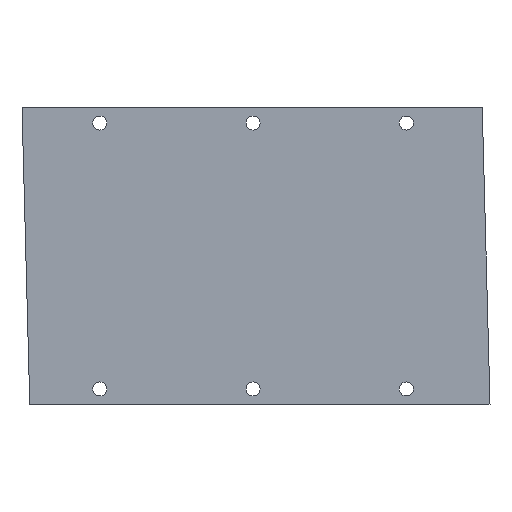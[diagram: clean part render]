
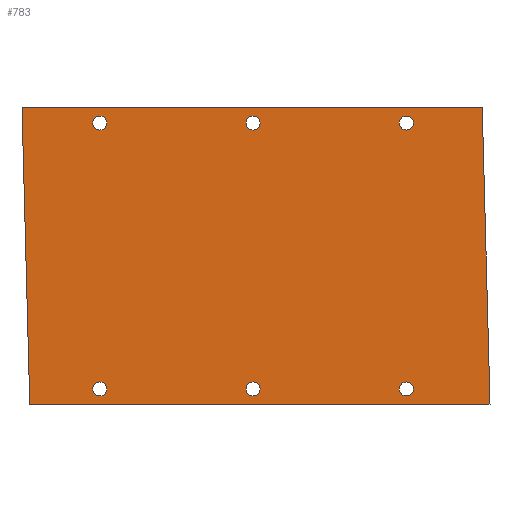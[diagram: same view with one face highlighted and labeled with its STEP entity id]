
A CAD part, front view. The second image highlights one B-rep face of the part: STEP entity #783.
In plain terms, the highlighted planar face has unit normal (0, -1, 0).
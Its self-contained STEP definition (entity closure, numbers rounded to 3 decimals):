
#23 = AXIS2_PLACEMENT_3D ( 'NONE', #1903, #1164, #1142 ) ;
#24 = ORIENTED_EDGE ( 'NONE', *, *, #851, .T. ) ;
#49 = CARTESIAN_POINT ( 'NONE',  ( -29.63, 0., 52. ) ) ;
#68 = LINE ( 'NONE', #1553, #1512 ) ;
#81 = ORIENTED_EDGE ( 'NONE', *, *, #1064, .T. ) ;
#84 = DIRECTION ( 'NONE',  ( 0., 0., 1. ) ) ;
#88 = CARTESIAN_POINT ( 'NONE',  ( -116.96, 0., -58. ) ) ;
#120 = CIRCLE ( 'NONE', #23, 2.75 ) ;
#148 = AXIS2_PLACEMENT_3D ( 'NONE', #1127, #369, #376 ) ;
#161 = VECTOR ( 'NONE', #1116, 1000. ) ;
#176 = VERTEX_POINT ( 'NONE', #353 ) ;
#182 = CIRCLE ( 'NONE', #387, 2.75 ) ;
#201 = VERTEX_POINT ( 'NONE', #2187 ) ;
#205 = EDGE_LOOP ( 'NONE', ( #24, #1286 ) ) ;
#243 = FACE_BOUND ( 'NONE', #205, .T. ) ;
#271 = CARTESIAN_POINT ( 'NONE',  ( 30.37, 0., 52. ) ) ;
#325 = EDGE_CURVE ( 'NONE', #1579, #176, #1217, .T. ) ;
#332 = FACE_BOUND ( 'NONE', #1087, .T. ) ;
#353 = CARTESIAN_POINT ( 'NONE',  ( 30.37, 0., -49.25 ) ) ;
#358 = FACE_OUTER_BOUND ( 'NONE', #1787, .T. ) ;
#369 = DIRECTION ( 'NONE',  ( 0., 1., 0. ) ) ;
#376 = DIRECTION ( 'NONE',  ( 0., 0., 1. ) ) ;
#387 = AXIS2_PLACEMENT_3D ( 'NONE', #700, #2203, #1454 ) ;
#412 = ORIENTED_EDGE ( 'NONE', *, *, #1135, .T. ) ;
#457 = VERTEX_POINT ( 'NONE', #2202 ) ;
#458 = DIRECTION ( 'NONE',  ( 0., 0., 1. ) ) ;
#465 = EDGE_CURVE ( 'NONE', #1817, #1323, #120, .T. ) ;
#470 = AXIS2_PLACEMENT_3D ( 'NONE', #271, #2300, #1568 ) ;
#482 = CARTESIAN_POINT ( 'NONE',  ( 0., 0., 0. ) ) ;
#490 = CARTESIAN_POINT ( 'NONE',  ( -89.63, 0., 54.75 ) ) ;
#506 = AXIS2_PLACEMENT_3D ( 'NONE', #1108, #2004, #2390 ) ;
#524 = CARTESIAN_POINT ( 'NONE',  ( 30.37, 0., 52. ) ) ;
#539 = VERTEX_POINT ( 'NONE', #1869 ) ;
#552 = CIRCLE ( 'NONE', #1937, 2.75 ) ;
#649 = VERTEX_POINT ( 'NONE', #2163 ) ;
#690 = ORIENTED_EDGE ( 'NONE', *, *, #1440, .T. ) ;
#691 = VERTEX_POINT ( 'NONE', #846 ) ;
#700 = CARTESIAN_POINT ( 'NONE',  ( 30.37, 0., -52. ) ) ;
#702 = CARTESIAN_POINT ( 'NONE',  ( -89.63, 0., -49.25 ) ) ;
#713 = EDGE_LOOP ( 'NONE', ( #1863, #1496 ) ) ;
#730 = FACE_BOUND ( 'NONE', #797, .T. ) ;
#748 = EDGE_LOOP ( 'NONE', ( #1958, #1077 ) ) ;
#783 = ADVANCED_FACE ( 'NONE', ( #730, #332, #1452, #2364, #243, #2051, #358 ), #1476, .T. ) ;
#797 = EDGE_LOOP ( 'NONE', ( #1952, #2234 ) ) ;
#831 = ORIENTED_EDGE ( 'NONE', *, *, #1819, .F. ) ;
#843 = CARTESIAN_POINT ( 'NONE',  ( -89.63, 0., -52. ) ) ;
#846 = CARTESIAN_POINT ( 'NONE',  ( -116.96, 0., -58. ) ) ;
#851 = EDGE_CURVE ( 'NONE', #1323, #1817, #1506, .T. ) ;
#874 = CARTESIAN_POINT ( 'NONE',  ( 63.04, 0., -58. ) ) ;
#884 = CARTESIAN_POINT ( 'NONE',  ( -120., 0., 58. ) ) ;
#891 = DIRECTION ( 'NONE',  ( 0., 0., 1. ) ) ;
#903 = ORIENTED_EDGE ( 'NONE', *, *, #2346, .T. ) ;
#924 = DIRECTION ( 'NONE',  ( 0., 1., 0. ) ) ;
#951 = DIRECTION ( 'NONE',  ( 0., 0., 1. ) ) ;
#967 = ORIENTED_EDGE ( 'NONE', *, *, #2009, .F. ) ;
#973 = DIRECTION ( 'NONE',  ( 0., 0., 1. ) ) ;
#984 = LINE ( 'NONE', #884, #161 ) ;
#1004 = DIRECTION ( 'NONE',  ( -1., 0., 0. ) ) ;
#1050 = CARTESIAN_POINT ( 'NONE',  ( -89.63, 0., -52. ) ) ;
#1064 = EDGE_CURVE ( 'NONE', #457, #1202, #1567, .T. ) ;
#1077 = ORIENTED_EDGE ( 'NONE', *, *, #1402, .T. ) ;
#1087 = EDGE_LOOP ( 'NONE', ( #903, #690 ) ) ;
#1108 = CARTESIAN_POINT ( 'NONE',  ( -29.63, 0., -52. ) ) ;
#1111 = AXIS2_PLACEMENT_3D ( 'NONE', #482, #1992, #1115 ) ;
#1115 = DIRECTION ( 'NONE',  ( 0., 0., -1. ) ) ;
#1116 = DIRECTION ( 'NONE',  ( -0.026, 0., 1. ) ) ;
#1127 = CARTESIAN_POINT ( 'NONE',  ( 30.37, 0., -52. ) ) ;
#1135 = EDGE_CURVE ( 'NONE', #1202, #457, #1563, .T. ) ;
#1142 = DIRECTION ( 'NONE',  ( 0., 0., 1. ) ) ;
#1164 = DIRECTION ( 'NONE',  ( 0., 1., 0. ) ) ;
#1196 = EDGE_CURVE ( 'NONE', #649, #1443, #1354, .T. ) ;
#1199 = CARTESIAN_POINT ( 'NONE',  ( -29.63, 0., 49.25 ) ) ;
#1202 = VERTEX_POINT ( 'NONE', #702 ) ;
#1217 = CIRCLE ( 'NONE', #148, 2.75 ) ;
#1219 = CARTESIAN_POINT ( 'NONE',  ( 60., 0., 58. ) ) ;
#1246 = CARTESIAN_POINT ( 'NONE',  ( -29.63, 0., -49.25 ) ) ;
#1286 = ORIENTED_EDGE ( 'NONE', *, *, #465, .T. ) ;
#1298 = CARTESIAN_POINT ( 'NONE',  ( 30.37, 0., -54.75 ) ) ;
#1311 = EDGE_CURVE ( 'NONE', #201, #1918, #1682, .T. ) ;
#1317 = AXIS2_PLACEMENT_3D ( 'NONE', #1050, #1803, #2155 ) ;
#1323 = VERTEX_POINT ( 'NONE', #2205 ) ;
#1354 = LINE ( 'NONE', #2008, #1741 ) ;
#1371 = EDGE_LOOP ( 'NONE', ( #412, #81 ) ) ;
#1399 = DIRECTION ( 'NONE',  ( 0., 1., 0. ) ) ;
#1402 = EDGE_CURVE ( 'NONE', #539, #1895, #552, .T. ) ;
#1440 = EDGE_CURVE ( 'NONE', #1870, #1979, #2080, .T. ) ;
#1443 = VERTEX_POINT ( 'NONE', #1219 ) ;
#1446 = DIRECTION ( 'NONE',  ( 1., 0., 0. ) ) ;
#1452 = FACE_BOUND ( 'NONE', #713, .T. ) ;
#1454 = DIRECTION ( 'NONE',  ( 0., 0., 1. ) ) ;
#1456 = CIRCLE ( 'NONE', #2273, 2.75 ) ;
#1459 = DIRECTION ( 'NONE',  ( 0., 1., 0. ) ) ;
#1476 = PLANE ( 'NONE',  #1111 ) ;
#1496 = ORIENTED_EDGE ( 'NONE', *, *, #1311, .T. ) ;
#1506 = CIRCLE ( 'NONE', #2219, 2.75 ) ;
#1512 = VECTOR ( 'NONE', #2280, 1000. ) ;
#1518 = EDGE_CURVE ( 'NONE', #176, #1579, #182, .T. ) ;
#1553 = CARTESIAN_POINT ( 'NONE',  ( 63.04, 0., -58. ) ) ;
#1562 = EDGE_CURVE ( 'NONE', #1918, #201, #2331, .T. ) ;
#1563 = CIRCLE ( 'NONE', #1317, 2.75 ) ;
#1567 = CIRCLE ( 'NONE', #1820, 2.75 ) ;
#1568 = DIRECTION ( 'NONE',  ( 0., 0., 1. ) ) ;
#1579 = VERTEX_POINT ( 'NONE', #1298 ) ;
#1682 = CIRCLE ( 'NONE', #2389, 2.75 ) ;
#1741 = VECTOR ( 'NONE', #1446, 1000. ) ;
#1782 = CARTESIAN_POINT ( 'NONE',  ( 30.37, 0., 49.25 ) ) ;
#1787 = EDGE_LOOP ( 'NONE', ( #2208, #2153, #967, #831 ) ) ;
#1792 = DIRECTION ( 'NONE',  ( 0., 0., 1. ) ) ;
#1798 = CARTESIAN_POINT ( 'NONE',  ( -89.63, 0., 52. ) ) ;
#1803 = DIRECTION ( 'NONE',  ( 0., 1., 0. ) ) ;
#1806 = CIRCLE ( 'NONE', #1830, 2.75 ) ;
#1817 = VERTEX_POINT ( 'NONE', #1199 ) ;
#1819 = EDGE_CURVE ( 'NONE', #2399, #691, #2393, .T. ) ;
#1820 = AXIS2_PLACEMENT_3D ( 'NONE', #843, #2338, #458 ) ;
#1830 = AXIS2_PLACEMENT_3D ( 'NONE', #524, #1459, #891 ) ;
#1863 = ORIENTED_EDGE ( 'NONE', *, *, #1562, .T. ) ;
#1865 = CARTESIAN_POINT ( 'NONE',  ( -29.63, 0., -52. ) ) ;
#1869 = CARTESIAN_POINT ( 'NONE',  ( -89.63, 0., 49.25 ) ) ;
#1870 = VERTEX_POINT ( 'NONE', #1782 ) ;
#1889 = VECTOR ( 'NONE', #1004, 1000. ) ;
#1895 = VERTEX_POINT ( 'NONE', #490 ) ;
#1897 = CARTESIAN_POINT ( 'NONE',  ( -89.63, 0., 52. ) ) ;
#1903 = CARTESIAN_POINT ( 'NONE',  ( -29.63, 0., 52. ) ) ;
#1918 = VERTEX_POINT ( 'NONE', #1246 ) ;
#1937 = AXIS2_PLACEMENT_3D ( 'NONE', #1897, #2079, #973 ) ;
#1952 = ORIENTED_EDGE ( 'NONE', *, *, #1518, .T. ) ;
#1958 = ORIENTED_EDGE ( 'NONE', *, *, #2174, .T. ) ;
#1979 = VERTEX_POINT ( 'NONE', #2344 ) ;
#1992 = DIRECTION ( 'NONE',  ( 0., -1., 0. ) ) ;
#2004 = DIRECTION ( 'NONE',  ( 0., 1., 0. ) ) ;
#2008 = CARTESIAN_POINT ( 'NONE',  ( 60., 0., 58. ) ) ;
#2009 = EDGE_CURVE ( 'NONE', #691, #649, #984, .T. ) ;
#2051 = FACE_BOUND ( 'NONE', #748, .T. ) ;
#2079 = DIRECTION ( 'NONE',  ( 0., 1., 0. ) ) ;
#2080 = CIRCLE ( 'NONE', #470, 2.75 ) ;
#2134 = EDGE_CURVE ( 'NONE', #1443, #2399, #68, .T. ) ;
#2153 = ORIENTED_EDGE ( 'NONE', *, *, #1196, .F. ) ;
#2155 = DIRECTION ( 'NONE',  ( 0., 0., 1. ) ) ;
#2163 = CARTESIAN_POINT ( 'NONE',  ( -120., 0., 58. ) ) ;
#2174 = EDGE_CURVE ( 'NONE', #1895, #539, #1456, .T. ) ;
#2187 = CARTESIAN_POINT ( 'NONE',  ( -29.63, 0., -54.75 ) ) ;
#2202 = CARTESIAN_POINT ( 'NONE',  ( -89.63, 0., -54.75 ) ) ;
#2203 = DIRECTION ( 'NONE',  ( 0., 1., 0. ) ) ;
#2205 = CARTESIAN_POINT ( 'NONE',  ( -29.63, 0., 54.75 ) ) ;
#2208 = ORIENTED_EDGE ( 'NONE', *, *, #2134, .F. ) ;
#2219 = AXIS2_PLACEMENT_3D ( 'NONE', #49, #1399, #84 ) ;
#2234 = ORIENTED_EDGE ( 'NONE', *, *, #325, .T. ) ;
#2273 = AXIS2_PLACEMENT_3D ( 'NONE', #1798, #2327, #1792 ) ;
#2280 = DIRECTION ( 'NONE',  ( 0.026, 0., -1. ) ) ;
#2300 = DIRECTION ( 'NONE',  ( 0., 1., 0. ) ) ;
#2327 = DIRECTION ( 'NONE',  ( 0., 1., 0. ) ) ;
#2331 = CIRCLE ( 'NONE', #506, 2.75 ) ;
#2338 = DIRECTION ( 'NONE',  ( 0., 1., 0. ) ) ;
#2344 = CARTESIAN_POINT ( 'NONE',  ( 30.37, 0., 54.75 ) ) ;
#2346 = EDGE_CURVE ( 'NONE', #1979, #1870, #1806, .T. ) ;
#2364 = FACE_BOUND ( 'NONE', #1371, .T. ) ;
#2389 = AXIS2_PLACEMENT_3D ( 'NONE', #1865, #924, #951 ) ;
#2390 = DIRECTION ( 'NONE',  ( 0., 0., 1. ) ) ;
#2393 = LINE ( 'NONE', #88, #1889 ) ;
#2399 = VERTEX_POINT ( 'NONE', #874 ) ;
